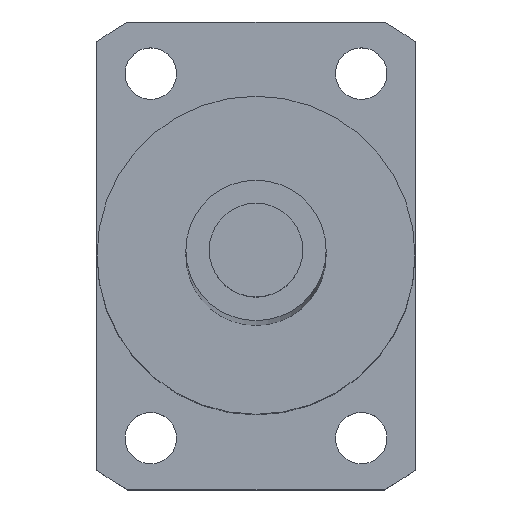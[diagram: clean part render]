
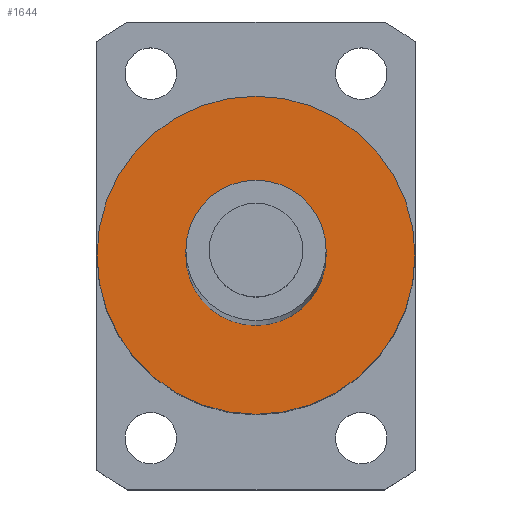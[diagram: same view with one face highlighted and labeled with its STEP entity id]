
A CAD part, top view. The second image highlights one B-rep face of the part: STEP entity #1644.
In plain terms, the highlighted planar face has unit normal (0, 0, 1).
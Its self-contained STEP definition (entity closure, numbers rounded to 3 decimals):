
#512=CARTESIAN_POINT('',(0.,0.,407.5));
#513=DIRECTION('',(0.,0.,1.));
#514=DIRECTION('',(1.,0.,0.));
#515=AXIS2_PLACEMENT_3D('',#512,#513,#514);
#517=CARTESIAN_POINT('',(0.,0.,407.5));
#518=DIRECTION('',(0.,0.,1.));
#519=DIRECTION('',(-1.,0.,0.));
#520=AXIS2_PLACEMENT_3D('',#517,#518,#519);
#522=CARTESIAN_POINT('',(0.,0.,407.5));
#523=DIRECTION('',(0.,0.,1.));
#524=DIRECTION('',(1.,0.,0.));
#525=AXIS2_PLACEMENT_3D('',#522,#523,#524);
#527=CARTESIAN_POINT('',(0.,0.,407.5));
#528=DIRECTION('',(0.,0.,1.));
#529=DIRECTION('',(-1.,0.,0.));
#530=AXIS2_PLACEMENT_3D('',#527,#528,#529);
#757=CARTESIAN_POINT('',(17.,0.,407.5));
#758=CARTESIAN_POINT('',(-17.,0.,407.5));
#759=VERTEX_POINT('',#757);
#760=VERTEX_POINT('',#758);
#769=CARTESIAN_POINT('',(7.5,0.,407.5));
#770=CARTESIAN_POINT('',(-7.5,0.,407.5));
#771=VERTEX_POINT('',#769);
#772=VERTEX_POINT('',#770);
#1629=CARTESIAN_POINT('',(0.,0.,407.5));
#1630=DIRECTION('',(0.,0.,1.));
#1631=DIRECTION('',(1.,0.,0.));
#1632=AXIS2_PLACEMENT_3D('',#1629,#1630,#1631);
#1633=PLANE('',#1632);
#1634=ORIENTED_EDGE('',*,*,#1609,.F.);
#1635=ORIENTED_EDGE('',*,*,#1623,.F.);
#1636=EDGE_LOOP('',(#1634,#1635));
#1637=FACE_OUTER_BOUND('',#1636,.F.);
#1639=ORIENTED_EDGE('',*,*,#1638,.T.);
#1641=ORIENTED_EDGE('',*,*,#1640,.T.);
#1642=EDGE_LOOP('',(#1639,#1641));
#1643=FACE_BOUND('',#1642,.F.);
#1644=ADVANCED_FACE('',(#1637,#1643),#1633,.T.);
#516=CIRCLE('',#515,17.);
#521=CIRCLE('',#520,17.);
#526=CIRCLE('',#525,7.5);
#531=CIRCLE('',#530,7.5);
#1609=EDGE_CURVE('',#759,#760,#516,.T.);
#1623=EDGE_CURVE('',#760,#759,#521,.T.);
#1638=EDGE_CURVE('',#771,#772,#526,.T.);
#1640=EDGE_CURVE('',#772,#771,#531,.T.);
